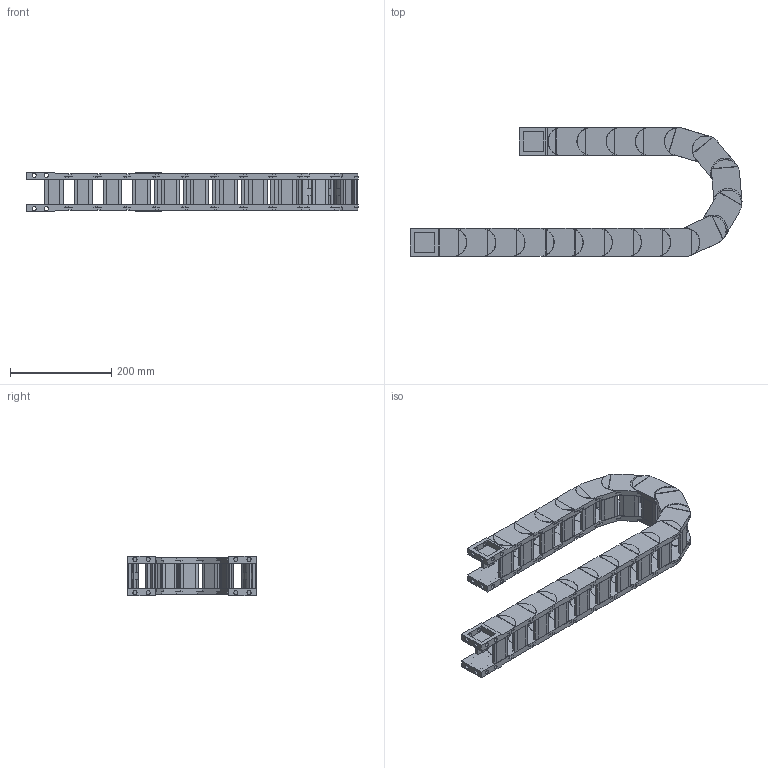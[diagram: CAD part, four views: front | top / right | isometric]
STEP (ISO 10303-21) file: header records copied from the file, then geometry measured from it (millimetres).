
FILE_DESCRIPTION((''),'2;1');
FILE_NAME('HD35-R100-ZPT_ASM','2022-06-17T15:55:31',('admin'),(''),'CREO PARAMETRIC BY PTC INC, 2021164','CREO PARAMETRIC BY PTC INC, 2021164','');
FILE_SCHEMA(('CONFIG_CONTROL_DESIGN','GEOMETRIC_VALIDATION_PROPERTIES_MIM'));
Length unit declared in the file: millimetre
Products named in the file (6): HD35; 35-600001; HD35_ASM; 35-TL_11; 35-WL; HD35-R100-ZPT_ASM
Assembly tree (23 placements, depth 3):
  HD35-R100-ZPT_ASM
    HD35_ASM  x17
      HD35
      35-600001
    35-TL_11
    35-WL
    35-600001  x2
Bounding box: 655.07 x 253.99 x 78.1 mm (x, y, z)
Volume: 2071785.2 mm3; surface area: 788431.7 mm2
Topology: 76 solids, 76 shells, 1426 faces, 3794 edges, 2600 vertices
Faces by surface type: plane 968, cylinder 458
Entity records: 9395 total; most frequent: DIRECTION 1420, CARTESIAN_POINT 1410, ORIENTED_EDGE 1300, EDGE_CURVE 650, AXIS2_PLACEMENT_3D 505, VERTEX_POINT 440, VECTOR 410, LINE 410
